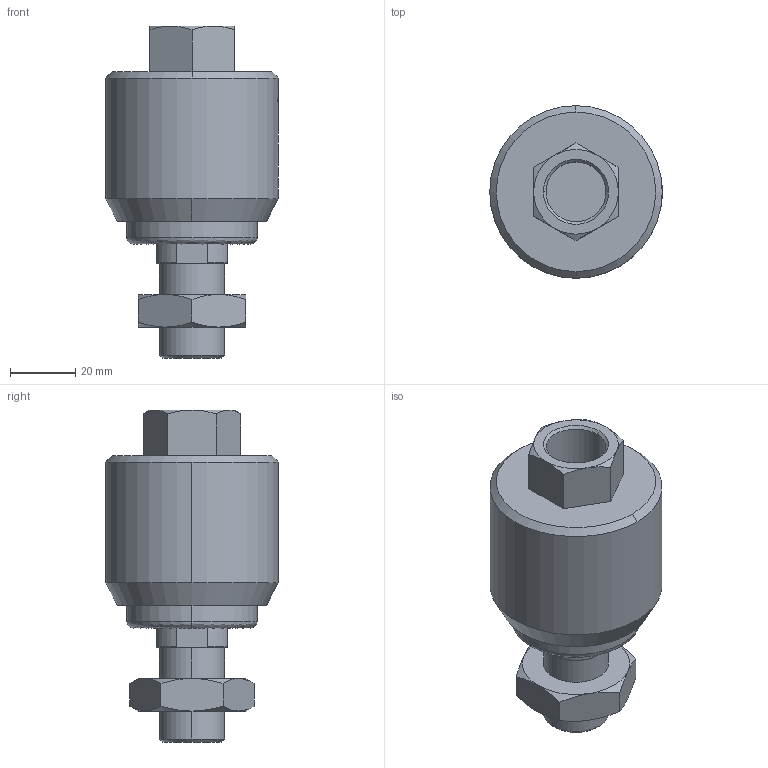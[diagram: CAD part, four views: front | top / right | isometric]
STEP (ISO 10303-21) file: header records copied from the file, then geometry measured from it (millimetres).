
FILE_DESCRIPTION (( 'STEP AP214' ), '1' );
FILE_NAME ('WKKA-080-M20x1.5 (3DMY).STEP', '2017-12-18T11:08:27', ( 'Hidtek' ), ( '' ), 'SwSTEP 2.0', 'SolidWorks 2016', '' );
FILE_SCHEMA (( 'AUTOMOTIVE_DESIGN' ));
Length unit declared in the file: millimetre
Products named in the file (1): WKKA-080-M20x1.5 (3DMY)
Bounding box: 53 x 53 x 102 mm (x, y, z)
Volume: 127492.4 mm3; surface area: 18793.9 mm2
Topology: 1 solids, 1 shells, 214 faces, 580 edges, 374 vertices
Faces by surface type: plane 102, cylinder 60, cone 38, bspline 14
Entity records: 8870 total; most frequent: CARTESIAN_POINT 2303, ORIENTED_EDGE 1160, DIRECTION 898, EDGE_CURVE 580, VERTEX_POINT 374, AXIS2_PLACEMENT_3D 325, LINE 248, VECTOR 248
